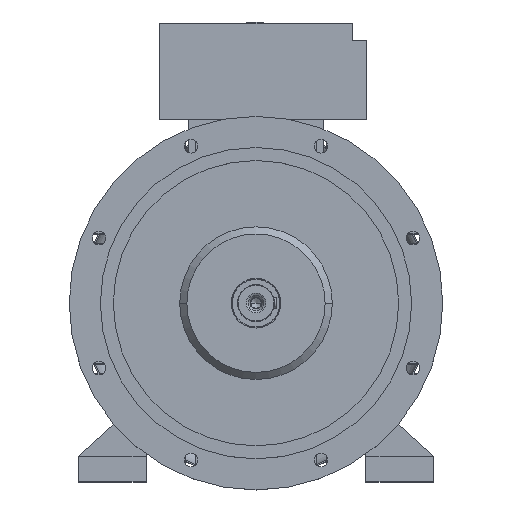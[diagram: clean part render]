
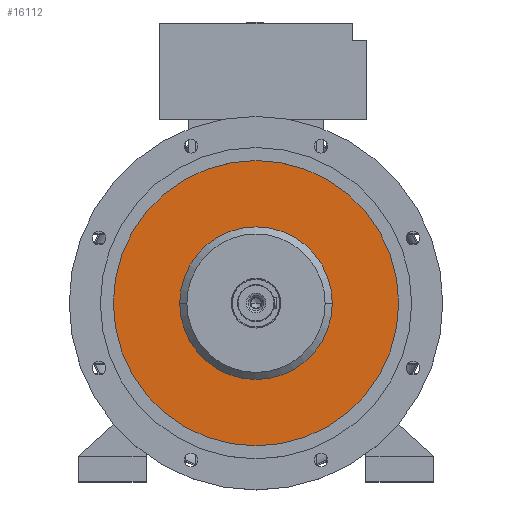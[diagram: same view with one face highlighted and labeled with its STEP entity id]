
A CAD part, top view. The second image highlights one B-rep face of the part: STEP entity #16112.
In plain terms, the highlighted planar face has unit normal (0, 0, 1).
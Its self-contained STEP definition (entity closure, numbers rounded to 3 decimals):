
#519 = DIRECTION ( 'NONE',  ( 1., 0., 0. ) ) ;
#2247 = DIRECTION ( 'NONE',  ( 0., 0., -1. ) ) ;
#2518 = DIRECTION ( 'NONE',  ( -1., 0., 0. ) ) ;
#2608 = EDGE_CURVE ( 'NONE', #16542, #12384, #6356, .T. ) ;
#2784 = EDGE_LOOP ( 'NONE', ( #19477, #22543 ) ) ;
#4151 = CARTESIAN_POINT ( 'NONE',  ( 0., 0., 455.4 ) ) ;
#4334 = DIRECTION ( 'NONE',  ( -1., 0., 0. ) ) ;
#6356 = CIRCLE ( 'NONE', #12553, 134.8 ) ;
#7213 = CARTESIAN_POINT ( 'NONE',  ( 252.083, 0., 455.4 ) ) ;
#7776 = FACE_BOUND ( 'NONE', #11351, .T. ) ;
#8309 = DIRECTION ( 'NONE',  ( 0., 0., -1. ) ) ;
#8527 = CARTESIAN_POINT ( 'NONE',  ( -252.083, 0., 455.4 ) ) ;
#9085 = DIRECTION ( 'NONE',  ( 0., 0., 1. ) ) ;
#10925 = EDGE_CURVE ( 'NONE', #19870, #21786, #15660, .T. ) ;
#11351 = EDGE_LOOP ( 'NONE', ( #24208, #21932 ) ) ;
#11664 = EDGE_CURVE ( 'NONE', #21786, #19870, #21830, .T. ) ;
#12384 = VERTEX_POINT ( 'NONE', #22006 ) ;
#12553 = AXIS2_PLACEMENT_3D ( 'NONE', #20812, #8309, #22901 ) ;
#12691 = CARTESIAN_POINT ( 'NONE',  ( 0., 0., 455.4 ) ) ;
#12928 = PLANE ( 'NONE',  #18647 ) ;
#13321 = DIRECTION ( 'NONE',  ( 0., 0., 1. ) ) ;
#14243 = AXIS2_PLACEMENT_3D ( 'NONE', #4151, #2247, #4334 ) ;
#14952 = EDGE_CURVE ( 'NONE', #12384, #16542, #23235, .T. ) ;
#15660 = CIRCLE ( 'NONE', #24897, 252.083 ) ;
#16112 = ADVANCED_FACE ( 'NONE', ( #7776, #19219 ), #12928, .T. ) ;
#16542 = VERTEX_POINT ( 'NONE', #21374 ) ;
#18647 = AXIS2_PLACEMENT_3D ( 'NONE', #23016, #23106, #519 ) ;
#19219 = FACE_OUTER_BOUND ( 'NONE', #2784, .T. ) ;
#19477 = ORIENTED_EDGE ( 'NONE', *, *, #11664, .T. ) ;
#19870 = VERTEX_POINT ( 'NONE', #7213 ) ;
#20625 = AXIS2_PLACEMENT_3D ( 'NONE', #23108, #9085, #2518 ) ;
#20812 = CARTESIAN_POINT ( 'NONE',  ( 0., 0., 455.4 ) ) ;
#21374 = CARTESIAN_POINT ( 'NONE',  ( 134.8, 0., 455.4 ) ) ;
#21786 = VERTEX_POINT ( 'NONE', #8527 ) ;
#21830 = CIRCLE ( 'NONE', #20625, 252.083 ) ;
#21932 = ORIENTED_EDGE ( 'NONE', *, *, #2608, .T. ) ;
#22006 = CARTESIAN_POINT ( 'NONE',  ( -134.8, 0., 455.4 ) ) ;
#22543 = ORIENTED_EDGE ( 'NONE', *, *, #10925, .T. ) ;
#22901 = DIRECTION ( 'NONE',  ( -1., 0., 0. ) ) ;
#23016 = CARTESIAN_POINT ( 'NONE',  ( 0., 252.083, 455.4 ) ) ;
#23106 = DIRECTION ( 'NONE',  ( 0., 0., 1. ) ) ;
#23108 = CARTESIAN_POINT ( 'NONE',  ( 0., 0., 455.4 ) ) ;
#23235 = CIRCLE ( 'NONE', #14243, 134.8 ) ;
#24208 = ORIENTED_EDGE ( 'NONE', *, *, #14952, .T. ) ;
#24897 = AXIS2_PLACEMENT_3D ( 'NONE', #12691, #13321, #25497 ) ;
#25497 = DIRECTION ( 'NONE',  ( -1., 0., 0. ) ) ;
